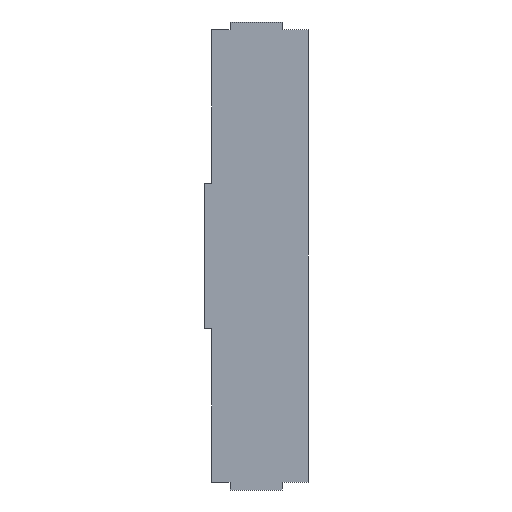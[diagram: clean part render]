
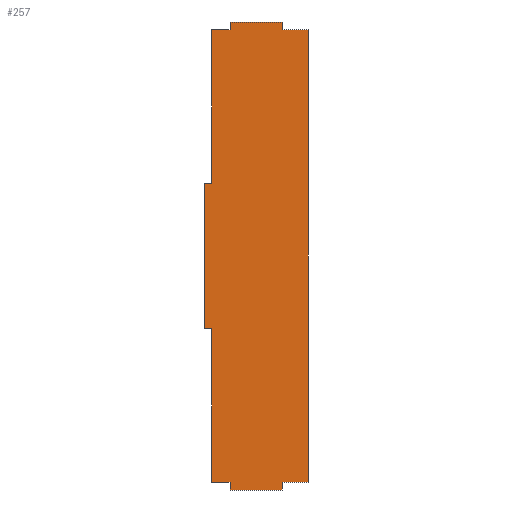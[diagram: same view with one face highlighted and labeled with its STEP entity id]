
A CAD part, left-side view. The second image highlights one B-rep face of the part: STEP entity #257.
In plain terms, the highlighted planar face has unit normal (-1, 0, 0).
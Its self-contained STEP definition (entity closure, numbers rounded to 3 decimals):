
#9 = CARTESIAN_POINT ( 'NONE',  ( 0., 20., 90. ) ) ;
#13 = ORIENTED_EDGE ( 'NONE', *, *, #282, .F. ) ;
#14 = CARTESIAN_POINT ( 'NONE',  ( 0., 17., 87. ) ) ;
#19 = LINE ( 'NONE', #72, #146 ) ;
#24 = ORIENTED_EDGE ( 'NONE', *, *, #238, .F. ) ;
#25 = CARTESIAN_POINT ( 'NONE',  ( 0., 20., -90. ) ) ;
#36 = ORIENTED_EDGE ( 'NONE', *, *, #549, .T. ) ;
#37 = CARTESIAN_POINT ( 'NONE',  ( 0., -10., 90. ) ) ;
#38 = ORIENTED_EDGE ( 'NONE', *, *, #352, .T. ) ;
#41 = EDGE_CURVE ( 'NONE', #242, #458, #533, .T. ) ;
#42 = CARTESIAN_POINT ( 'NONE',  ( 0., 17., 87. ) ) ;
#43 = ORIENTED_EDGE ( 'NONE', *, *, #434, .T. ) ;
#46 = VERTEX_POINT ( 'NONE', #408 ) ;
#51 = CARTESIAN_POINT ( 'NONE',  ( 0., 10., 87. ) ) ;
#57 = CARTESIAN_POINT ( 'NONE',  ( 0., -10., -87. ) ) ;
#70 = LINE ( 'NONE', #126, #314 ) ;
#72 = CARTESIAN_POINT ( 'NONE',  ( 0., -10., 90. ) ) ;
#74 = LINE ( 'NONE', #25, #86 ) ;
#86 = VECTOR ( 'NONE', #181, 1000. ) ;
#90 = ORIENTED_EDGE ( 'NONE', *, *, #617, .T. ) ;
#96 = EDGE_CURVE ( 'NONE', #101, #611, #159, .T. ) ;
#97 = DIRECTION ( 'NONE',  ( 0., 0., -1. ) ) ;
#99 = DIRECTION ( 'NONE',  ( 0., 0., -1. ) ) ;
#101 = VERTEX_POINT ( 'NONE', #592 ) ;
#103 = CARTESIAN_POINT ( 'NONE',  ( 0., 20., -28. ) ) ;
#108 = DIRECTION ( 'NONE',  ( 0., 1., 0. ) ) ;
#113 = ORIENTED_EDGE ( 'NONE', *, *, #196, .T. ) ;
#114 = EDGE_CURVE ( 'NONE', #535, #417, #302, .T. ) ;
#124 = VERTEX_POINT ( 'NONE', #51 ) ;
#126 = CARTESIAN_POINT ( 'NONE',  ( 0., -10., -90. ) ) ;
#127 = VERTEX_POINT ( 'NONE', #261 ) ;
#131 = ORIENTED_EDGE ( 'NONE', *, *, #178, .T. ) ;
#134 = VERTEX_POINT ( 'NONE', #546 ) ;
#136 = ORIENTED_EDGE ( 'NONE', *, *, #587, .T. ) ;
#138 = VECTOR ( 'NONE', #518, 1000. ) ;
#140 = ORIENTED_EDGE ( 'NONE', *, *, #164, .T. ) ;
#141 = CARTESIAN_POINT ( 'NONE',  ( 0., 10., 90. ) ) ;
#143 = EDGE_CURVE ( 'NONE', #187, #134, #162, .T. ) ;
#146 = VECTOR ( 'NONE', #270, 1000. ) ;
#147 = VECTOR ( 'NONE', #625, 1000. ) ;
#157 = VERTEX_POINT ( 'NONE', #57 ) ;
#159 = LINE ( 'NONE', #349, #473 ) ;
#162 = LINE ( 'NONE', #9, #426 ) ;
#164 = EDGE_CURVE ( 'NONE', #157, #458, #584, .T. ) ;
#167 = CARTESIAN_POINT ( 'NONE',  ( 0., 20., 90. ) ) ;
#172 = VERTEX_POINT ( 'NONE', #394 ) ;
#178 = EDGE_CURVE ( 'NONE', #172, #46, #344, .T. ) ;
#181 = DIRECTION ( 'NONE',  ( 0., 1., 0. ) ) ;
#185 = CARTESIAN_POINT ( 'NONE',  ( 0., -20., -87. ) ) ;
#187 = VERTEX_POINT ( 'NONE', #103 ) ;
#196 = EDGE_CURVE ( 'NONE', #417, #134, #498, .T. ) ;
#205 = DIRECTION ( 'NONE',  ( 0., 0., -1. ) ) ;
#236 = LINE ( 'NONE', #283, #138 ) ;
#238 = EDGE_CURVE ( 'NONE', #127, #506, #514, .T. ) ;
#239 = LINE ( 'NONE', #141, #147 ) ;
#242 = VERTEX_POINT ( 'NONE', #554 ) ;
#245 = ORIENTED_EDGE ( 'NONE', *, *, #114, .T. ) ;
#257 = ADVANCED_FACE ( 'NONE', ( #420 ), #566, .F. ) ;
#258 = DIRECTION ( 'NONE',  ( 0., 0., 1. ) ) ;
#261 = CARTESIAN_POINT ( 'NONE',  ( 0., 10., 90. ) ) ;
#270 = DIRECTION ( 'NONE',  ( 0., 0., 1. ) ) ;
#273 = VERTEX_POINT ( 'NONE', #463 ) ;
#274 = DIRECTION ( 'NONE',  ( 1., 0., 0. ) ) ;
#280 = VECTOR ( 'NONE', #99, 1000. ) ;
#282 = EDGE_CURVE ( 'NONE', #273, #611, #74, .T. ) ;
#283 = CARTESIAN_POINT ( 'NONE',  ( 0., 17., -87. ) ) ;
#285 = CARTESIAN_POINT ( 'NONE',  ( 0., 20., -28. ) ) ;
#287 = CARTESIAN_POINT ( 'NONE',  ( 0., -20., 87. ) ) ;
#289 = VECTOR ( 'NONE', #427, 1000. ) ;
#291 = ORIENTED_EDGE ( 'NONE', *, *, #41, .F. ) ;
#302 = LINE ( 'NONE', #14, #280 ) ;
#314 = VECTOR ( 'NONE', #409, 1000. ) ;
#317 = ORIENTED_EDGE ( 'NONE', *, *, #96, .T. ) ;
#322 = EDGE_LOOP ( 'NONE', ( #245, #113, #372, #531, #131, #382, #317, #13, #38, #140, #291, #136, #43, #24, #36, #90 ) ) ;
#336 = VERTEX_POINT ( 'NONE', #418 ) ;
#340 = VECTOR ( 'NONE', #97, 1000. ) ;
#344 = LINE ( 'NONE', #543, #503 ) ;
#349 = CARTESIAN_POINT ( 'NONE',  ( 0., 10., -90. ) ) ;
#352 = EDGE_CURVE ( 'NONE', #273, #157, #70, .T. ) ;
#361 = DIRECTION ( 'NONE',  ( 0., 0., -1. ) ) ;
#370 = CARTESIAN_POINT ( 'NONE',  ( 0., 0., 0. ) ) ;
#372 = ORIENTED_EDGE ( 'NONE', *, *, #143, .F. ) ;
#376 = DIRECTION ( 'NONE',  ( 0., -1., 0. ) ) ;
#382 = ORIENTED_EDGE ( 'NONE', *, *, #494, .T. ) ;
#387 = LINE ( 'NONE', #578, #491 ) ;
#394 = CARTESIAN_POINT ( 'NONE',  ( 0., 17., -28. ) ) ;
#401 = DIRECTION ( 'NONE',  ( 0., -1., 0. ) ) ;
#408 = CARTESIAN_POINT ( 'NONE',  ( 0., 17., -87. ) ) ;
#409 = DIRECTION ( 'NONE',  ( 0., 0., 1. ) ) ;
#417 = VERTEX_POINT ( 'NONE', #547 ) ;
#418 = CARTESIAN_POINT ( 'NONE',  ( 0., -10., 87. ) ) ;
#420 = FACE_OUTER_BOUND ( 'NONE', #322, .T. ) ;
#426 = VECTOR ( 'NONE', #258, 1000. ) ;
#427 = DIRECTION ( 'NONE',  ( 0., 1., 0. ) ) ;
#434 = EDGE_CURVE ( 'NONE', #336, #506, #19, .T. ) ;
#437 = CARTESIAN_POINT ( 'NONE',  ( 0., 10., -90. ) ) ;
#438 = CARTESIAN_POINT ( 'NONE',  ( 0., -20., 90. ) ) ;
#443 = VECTOR ( 'NONE', #401, 1000. ) ;
#449 = CARTESIAN_POINT ( 'NONE',  ( 0., 20., 28. ) ) ;
#458 = VERTEX_POINT ( 'NONE', #185 ) ;
#463 = CARTESIAN_POINT ( 'NONE',  ( 0., -10., -90. ) ) ;
#467 = LINE ( 'NONE', #287, #289 ) ;
#470 = VECTOR ( 'NONE', #108, 1000. ) ;
#473 = VECTOR ( 'NONE', #205, 1000. ) ;
#485 = EDGE_CURVE ( 'NONE', #187, #172, #615, .T. ) ;
#486 = DIRECTION ( 'NONE',  ( 0., 1., 0. ) ) ;
#491 = VECTOR ( 'NONE', #486, 1000. ) ;
#494 = EDGE_CURVE ( 'NONE', #46, #101, #236, .T. ) ;
#498 = LINE ( 'NONE', #449, #470 ) ;
#501 = DIRECTION ( 'NONE',  ( 0., 0., -1. ) ) ;
#503 = VECTOR ( 'NONE', #501, 1000. ) ;
#506 = VERTEX_POINT ( 'NONE', #37 ) ;
#514 = LINE ( 'NONE', #167, #525 ) ;
#518 = DIRECTION ( 'NONE',  ( 0., -1., 0. ) ) ;
#525 = VECTOR ( 'NONE', #376, 1000. ) ;
#531 = ORIENTED_EDGE ( 'NONE', *, *, #485, .T. ) ;
#533 = LINE ( 'NONE', #438, #340 ) ;
#535 = VERTEX_POINT ( 'NONE', #42 ) ;
#543 = CARTESIAN_POINT ( 'NONE',  ( 0., 17., -87. ) ) ;
#546 = CARTESIAN_POINT ( 'NONE',  ( 0., 20., 28. ) ) ;
#547 = CARTESIAN_POINT ( 'NONE',  ( 0., 17., 28. ) ) ;
#549 = EDGE_CURVE ( 'NONE', #127, #124, #239, .T. ) ;
#554 = CARTESIAN_POINT ( 'NONE',  ( 0., -20., 87. ) ) ;
#564 = VECTOR ( 'NONE', #618, 1000. ) ;
#566 = PLANE ( 'NONE',  #630 ) ;
#578 = CARTESIAN_POINT ( 'NONE',  ( 0., 17., 87. ) ) ;
#584 = LINE ( 'NONE', #588, #443 ) ;
#587 = EDGE_CURVE ( 'NONE', #242, #336, #467, .T. ) ;
#588 = CARTESIAN_POINT ( 'NONE',  ( 0., -20., -87. ) ) ;
#592 = CARTESIAN_POINT ( 'NONE',  ( 0., 10., -87. ) ) ;
#611 = VERTEX_POINT ( 'NONE', #437 ) ;
#615 = LINE ( 'NONE', #285, #564 ) ;
#617 = EDGE_CURVE ( 'NONE', #124, #535, #387, .T. ) ;
#618 = DIRECTION ( 'NONE',  ( 0., -1., 0. ) ) ;
#625 = DIRECTION ( 'NONE',  ( 0., 0., -1. ) ) ;
#630 = AXIS2_PLACEMENT_3D ( 'NONE', #370, #274, #361 ) ;
